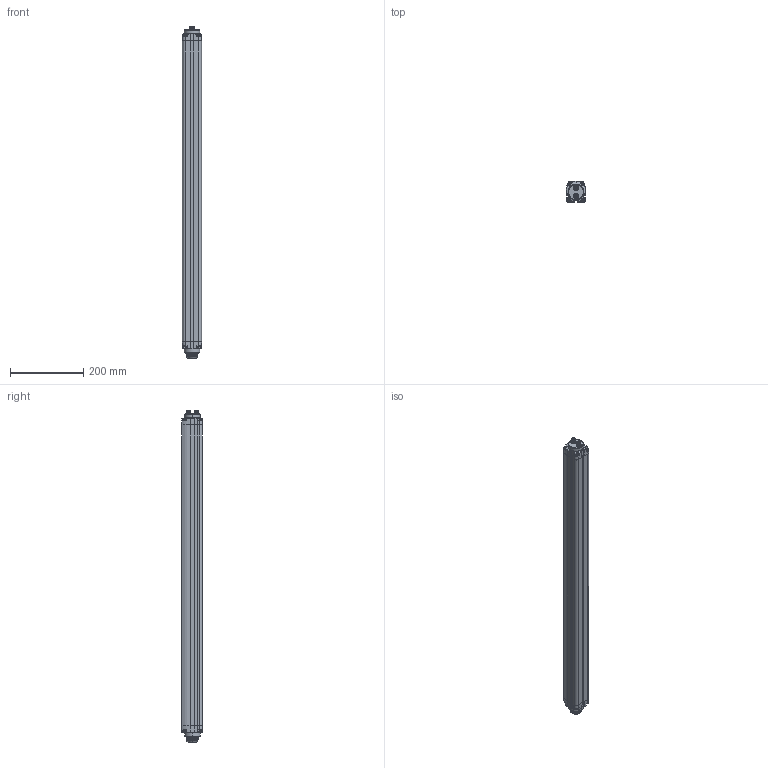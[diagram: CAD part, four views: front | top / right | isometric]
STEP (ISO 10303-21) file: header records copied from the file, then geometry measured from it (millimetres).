
FILE_DESCRIPTION(('STEP AP214'),'1');
FILE_NAME('SGBodyBigMuting_080_safetylightcurtains.stp','2017-11-09T11:09:28',('3D-Tool'),(' '),'Spatial InterOp 3D',' ',' ');
FILE_SCHEMA(('AUTOMOTIVE_DESIGN { 1 0 10303 214 1 1 1 1 }'));
Length unit declared in the file: millimetre
Products named in the file (1): 1
Bounding box: 52 x 56.93 x 906.4 mm (x, y, z)
Surface area: 228922.9 mm2 (no closed solid volume)
Topology: 0 solids, 1151 shells, 1151 faces, 6233 edges, 6205 vertices
Faces by surface type: bspline 1151
Entity records: 145086 total; most frequent: CARTESIAN_POINT 78301, ORIENTED_EDGE 6205, EDGE_CURVE 6205, VERTEX_POINT 6205, DIRECTION 4690, PRESENTATION_STYLE_ASSIGNMENT 4412, COLOUR_RGB 4412, B_SPLINE_CURVE_WITH_KNOTS 3791
